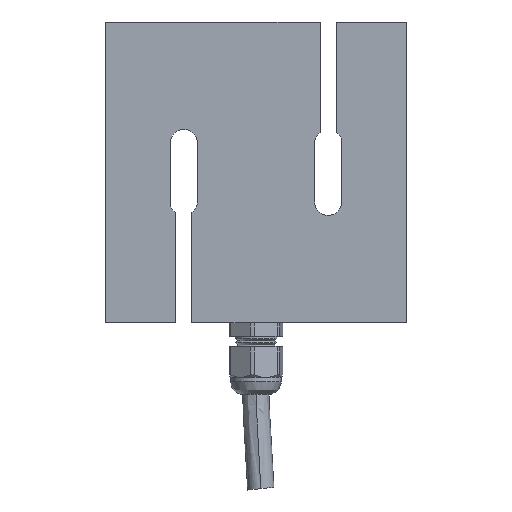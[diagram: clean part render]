
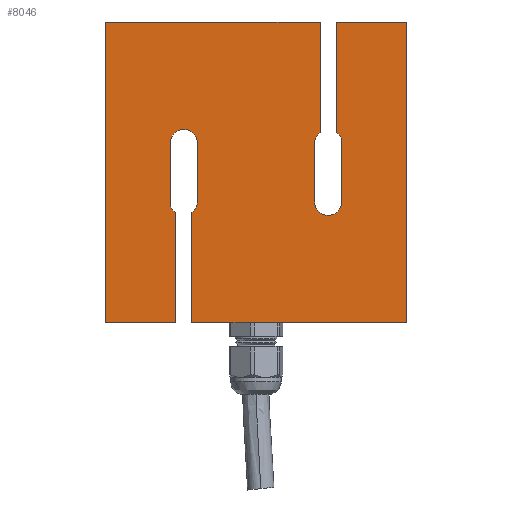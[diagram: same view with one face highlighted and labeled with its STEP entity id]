
A CAD part, left-side view. The second image highlights one B-rep face of the part: STEP entity #8046.
In plain terms, the highlighted planar face has unit normal (-1, 0, 0).
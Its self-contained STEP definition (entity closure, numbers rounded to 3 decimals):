
#755=PLANE('',#8752);
#1010=FACE_OUTER_BOUND('',#1567,.T.);
#1567=EDGE_LOOP('',(#6188,#6189,#6190,#6191,#6192,#6193,#6194,#6195,#6196,
#6197,#6198,#6199,#6200,#6201,#6202,#6203,#6204,#6205,#6206,#6207));
#2063=LINE('',#11324,#2664);
#2079=LINE('',#11368,#2680);
#2152=LINE('',#13274,#2753);
#2153=LINE('',#13276,#2754);
#2154=LINE('',#13278,#2755);
#2155=LINE('',#13280,#2756);
#2156=LINE('',#13284,#2757);
#2157=LINE('',#13288,#2758);
#2158=LINE('',#13291,#2759);
#2159=LINE('',#13293,#2760);
#2160=LINE('',#13295,#2761);
#2161=LINE('',#13297,#2762);
#2162=LINE('',#13301,#2763);
#2163=LINE('',#13304,#2764);
#2664=VECTOR('',#9555,1000.);
#2680=VECTOR('',#9587,1000.);
#2753=VECTOR('',#9758,1000.);
#2754=VECTOR('',#9759,1000.);
#2755=VECTOR('',#9760,1000.);
#2756=VECTOR('',#9761,1000.);
#2757=VECTOR('',#9764,1000.);
#2758=VECTOR('',#9767,1000.);
#2759=VECTOR('',#9770,1000.);
#2760=VECTOR('',#9771,1000.);
#2761=VECTOR('',#9772,1000.);
#2762=VECTOR('',#9773,1000.);
#2763=VECTOR('',#9776,1000.);
#2764=VECTOR('',#9779,1000.);
#3350=CIRCLE('',#8753,4.);
#3351=CIRCLE('',#8754,4.);
#3352=CIRCLE('',#8755,4.);
#3353=CIRCLE('',#8756,4.);
#3354=CIRCLE('',#8757,4.);
#3355=CIRCLE('',#8758,4.);
#3556=VERTEX_POINT('',#11321);
#3557=VERTEX_POINT('',#11323);
#3576=VERTEX_POINT('',#11365);
#3577=VERTEX_POINT('',#11367);
#3845=VERTEX_POINT('',#13271);
#3846=VERTEX_POINT('',#13272);
#3847=VERTEX_POINT('',#13275);
#3848=VERTEX_POINT('',#13277);
#3849=VERTEX_POINT('',#13279);
#3850=VERTEX_POINT('',#13281);
#3851=VERTEX_POINT('',#13283);
#3852=VERTEX_POINT('',#13285);
#3853=VERTEX_POINT('',#13287);
#3854=VERTEX_POINT('',#13289);
#3855=VERTEX_POINT('',#13292);
#3856=VERTEX_POINT('',#13294);
#3857=VERTEX_POINT('',#13296);
#3858=VERTEX_POINT('',#13298);
#3859=VERTEX_POINT('',#13300);
#3860=VERTEX_POINT('',#13302);
#4446=EDGE_CURVE('',#3557,#3556,#2063,.T.);
#4468=EDGE_CURVE('',#3577,#3576,#2079,.T.);
#4737=EDGE_CURVE('',#3845,#3846,#3350,.T.);
#4738=EDGE_CURVE('',#3846,#3577,#2152,.T.);
#4739=EDGE_CURVE('',#3576,#3847,#2153,.T.);
#4740=EDGE_CURVE('',#3847,#3848,#2154,.T.);
#4741=EDGE_CURVE('',#3848,#3849,#2155,.T.);
#4742=EDGE_CURVE('',#3849,#3850,#3351,.T.);
#4743=EDGE_CURVE('',#3850,#3851,#2156,.T.);
#4744=EDGE_CURVE('',#3851,#3852,#3352,.T.);
#4745=EDGE_CURVE('',#3852,#3853,#2157,.T.);
#4746=EDGE_CURVE('',#3853,#3854,#3353,.T.);
#4747=EDGE_CURVE('',#3854,#3557,#2158,.T.);
#4748=EDGE_CURVE('',#3556,#3855,#2159,.T.);
#4749=EDGE_CURVE('',#3855,#3856,#2160,.T.);
#4750=EDGE_CURVE('',#3856,#3857,#2161,.T.);
#4751=EDGE_CURVE('',#3857,#3858,#3354,.T.);
#4752=EDGE_CURVE('',#3858,#3859,#2162,.T.);
#4753=EDGE_CURVE('',#3859,#3860,#3355,.T.);
#4754=EDGE_CURVE('',#3860,#3845,#2163,.T.);
#6188=ORIENTED_EDGE('',*,*,#4737,.T.);
#6189=ORIENTED_EDGE('',*,*,#4738,.T.);
#6190=ORIENTED_EDGE('',*,*,#4468,.T.);
#6191=ORIENTED_EDGE('',*,*,#4739,.T.);
#6192=ORIENTED_EDGE('',*,*,#4740,.T.);
#6193=ORIENTED_EDGE('',*,*,#4741,.T.);
#6194=ORIENTED_EDGE('',*,*,#4742,.T.);
#6195=ORIENTED_EDGE('',*,*,#4743,.T.);
#6196=ORIENTED_EDGE('',*,*,#4744,.T.);
#6197=ORIENTED_EDGE('',*,*,#4745,.T.);
#6198=ORIENTED_EDGE('',*,*,#4746,.T.);
#6199=ORIENTED_EDGE('',*,*,#4747,.T.);
#6200=ORIENTED_EDGE('',*,*,#4446,.T.);
#6201=ORIENTED_EDGE('',*,*,#4748,.T.);
#6202=ORIENTED_EDGE('',*,*,#4749,.T.);
#6203=ORIENTED_EDGE('',*,*,#4750,.T.);
#6204=ORIENTED_EDGE('',*,*,#4751,.T.);
#6205=ORIENTED_EDGE('',*,*,#4752,.T.);
#6206=ORIENTED_EDGE('',*,*,#4753,.T.);
#6207=ORIENTED_EDGE('',*,*,#4754,.T.);
#8046=ADVANCED_FACE('',(#1010),#755,.T.);
#8752=AXIS2_PLACEMENT_3D('',#13270,#9754,#9755);
#8753=AXIS2_PLACEMENT_3D('',#13273,#9756,#9757);
#8754=AXIS2_PLACEMENT_3D('',#13282,#9762,#9763);
#8755=AXIS2_PLACEMENT_3D('',#13286,#9765,#9766);
#8756=AXIS2_PLACEMENT_3D('',#13290,#9768,#9769);
#8757=AXIS2_PLACEMENT_3D('',#13299,#9774,#9775);
#8758=AXIS2_PLACEMENT_3D('',#13303,#9777,#9778);
#9555=DIRECTION('',(0.,-1.,0.));
#9587=DIRECTION('',(0.,1.,0.));
#9754=DIRECTION('center_axis',(-1.,0.,0.));
#9755=DIRECTION('ref_axis',(0.,0.,1.));
#9756=DIRECTION('center_axis',(1.,0.,0.));
#9757=DIRECTION('ref_axis',(0.,0.,1.));
#9758=DIRECTION('',(0.,0.,1.));
#9759=DIRECTION('',(0.,0.,-1.));
#9760=DIRECTION('',(0.,-1.,0.));
#9761=DIRECTION('',(0.,0.,1.));
#9762=DIRECTION('center_axis',(1.,0.,0.));
#9763=DIRECTION('ref_axis',(0.,0.,1.));
#9764=DIRECTION('',(0.,0.,1.));
#9765=DIRECTION('center_axis',(1.,0.,0.));
#9766=DIRECTION('ref_axis',(0.,0.,1.));
#9767=DIRECTION('',(0.,0.,-1.));
#9768=DIRECTION('center_axis',(1.,0.,0.));
#9769=DIRECTION('ref_axis',(0.,0.,1.));
#9770=DIRECTION('',(0.,0.,-1.));
#9771=DIRECTION('',(0.,0.,1.));
#9772=DIRECTION('',(0.,1.,0.));
#9773=DIRECTION('',(0.,0.,-1.));
#9774=DIRECTION('center_axis',(1.,0.,0.));
#9775=DIRECTION('ref_axis',(0.,0.,1.));
#9776=DIRECTION('',(0.,0.,-1.));
#9777=DIRECTION('center_axis',(1.,0.,0.));
#9778=DIRECTION('ref_axis',(0.,0.,1.));
#9779=DIRECTION('',(0.,0.,1.));
#11321=CARTESIAN_POINT('',(-39.8,-43.519,0.));
#11323=CARTESIAN_POINT('',(-39.8,19.731,0.));
#11324=CARTESIAN_POINT('',(-39.8,19.731,0.));
#11365=CARTESIAN_POINT('',(-39.8,45.181,88.7));
#11367=CARTESIAN_POINT('',(-39.8,-18.069,88.7));
#11368=CARTESIAN_POINT('',(-39.8,-18.069,88.7));
#13270=CARTESIAN_POINT('Origin',(-39.8,22.131,35.65));
#13271=CARTESIAN_POINT('',(-39.8,-16.469,53.05));
#13272=CARTESIAN_POINT('',(-39.8,-18.069,56.25));
#13273=CARTESIAN_POINT('Origin',(-39.8,-20.469,53.05));
#13274=CARTESIAN_POINT('',(-39.8,-18.069,56.25));
#13275=CARTESIAN_POINT('',(-39.8,45.181,0.));
#13276=CARTESIAN_POINT('',(-39.8,45.181,88.7));
#13277=CARTESIAN_POINT('',(-39.8,24.531,0.));
#13278=CARTESIAN_POINT('',(-39.8,45.181,0.));
#13279=CARTESIAN_POINT('',(-39.8,24.531,32.45));
#13280=CARTESIAN_POINT('',(-39.8,24.531,0.));
#13281=CARTESIAN_POINT('',(-39.8,26.131,35.65));
#13282=CARTESIAN_POINT('Origin',(-39.8,22.131,35.65));
#13283=CARTESIAN_POINT('',(-39.8,26.131,53.05));
#13284=CARTESIAN_POINT('',(-39.8,26.131,53.05));
#13285=CARTESIAN_POINT('',(-39.8,18.131,53.05));
#13286=CARTESIAN_POINT('Origin',(-39.8,22.131,53.05));
#13287=CARTESIAN_POINT('',(-39.8,18.131,35.65));
#13288=CARTESIAN_POINT('',(-39.8,18.131,53.05));
#13289=CARTESIAN_POINT('',(-39.8,19.731,32.45));
#13290=CARTESIAN_POINT('Origin',(-39.8,22.131,35.65));
#13291=CARTESIAN_POINT('',(-39.8,19.731,32.45));
#13292=CARTESIAN_POINT('',(-39.8,-43.519,88.7));
#13293=CARTESIAN_POINT('',(-39.8,-43.519,0.));
#13294=CARTESIAN_POINT('',(-39.8,-22.869,88.7));
#13295=CARTESIAN_POINT('',(-39.8,-43.519,88.7));
#13296=CARTESIAN_POINT('',(-39.8,-22.869,56.25));
#13297=CARTESIAN_POINT('',(-39.8,-22.869,88.7));
#13298=CARTESIAN_POINT('',(-39.8,-24.469,53.05));
#13299=CARTESIAN_POINT('Origin',(-39.8,-20.469,53.05));
#13300=CARTESIAN_POINT('',(-39.8,-24.469,35.65));
#13301=CARTESIAN_POINT('',(-39.8,-24.469,35.65));
#13302=CARTESIAN_POINT('',(-39.8,-16.469,35.65));
#13303=CARTESIAN_POINT('Origin',(-39.8,-20.469,35.65));
#13304=CARTESIAN_POINT('',(-39.8,-16.469,35.65));
